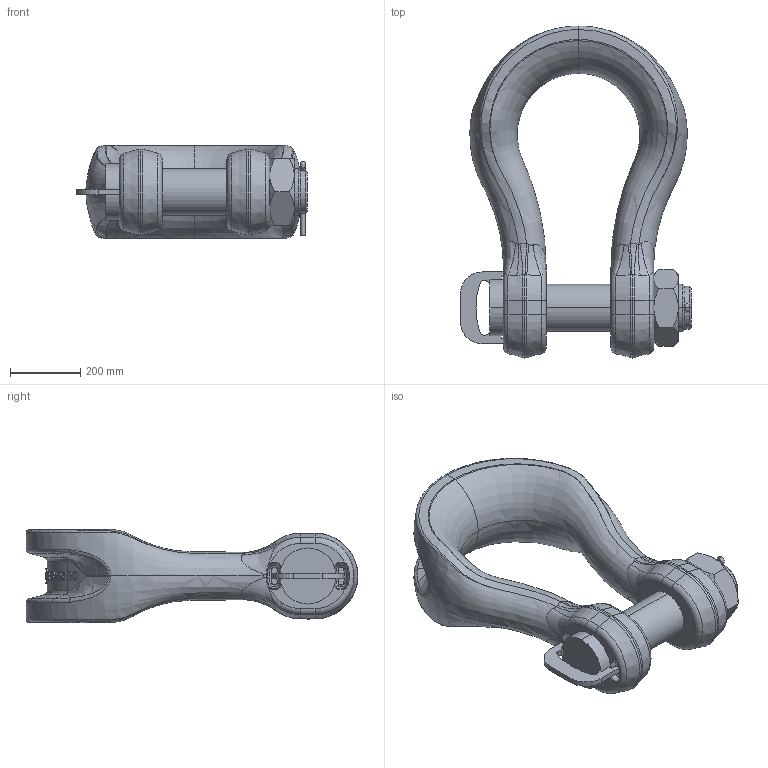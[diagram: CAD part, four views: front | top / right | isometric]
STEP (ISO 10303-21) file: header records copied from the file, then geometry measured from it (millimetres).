
FILE_DESCRIPTION(('STEP AP214'),'1');
FILE_NAME('slgpf0300.stp','2017-07-03T06:30:03',('TraceParts'),('TraceParts S.A.'),'Spatial InterOp 3D',' ',' ');
FILE_SCHEMA(('automotive_design'));
Length unit declared in the file: millimetre
Products named in the file (5): slgpf0300_1; slgpf0300_2; slgpf0300_3; slgpf0300_4; slgpf0300_5
Bounding box: 658.5 x 946.5 x 265.75 mm (x, y, z)
Volume: 47553667.5 mm3; surface area: 1747502.7 mm2
Topology: 5 solids, 5 shells, 608 faces, 1578 edges, 999 vertices
Faces by surface type: bspline 218, plane 173, cylinder 79, torus 72, cone 66
Entity records: 133094 total; most frequent: CARTESIAN_POINT 114729, ORIENTED_EDGE 3140, DIRECTION 2231, EDGE_CURVE 1570, VERTEX_POINT 999, AXIS2_PLACEMENT_3D 846, EDGE_LOOP 643, PRESENTATION_STYLE_ASSIGNMENT 618
